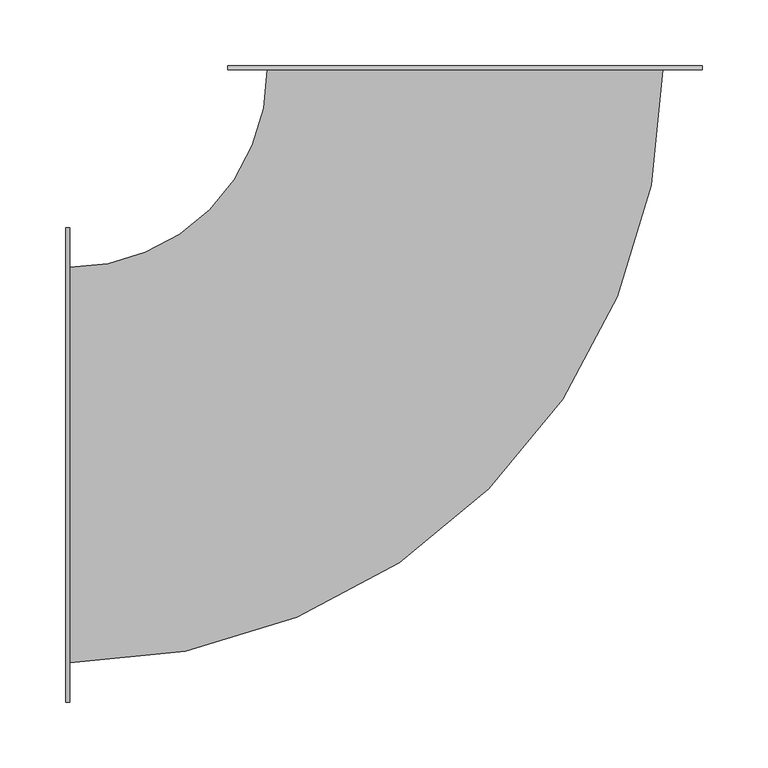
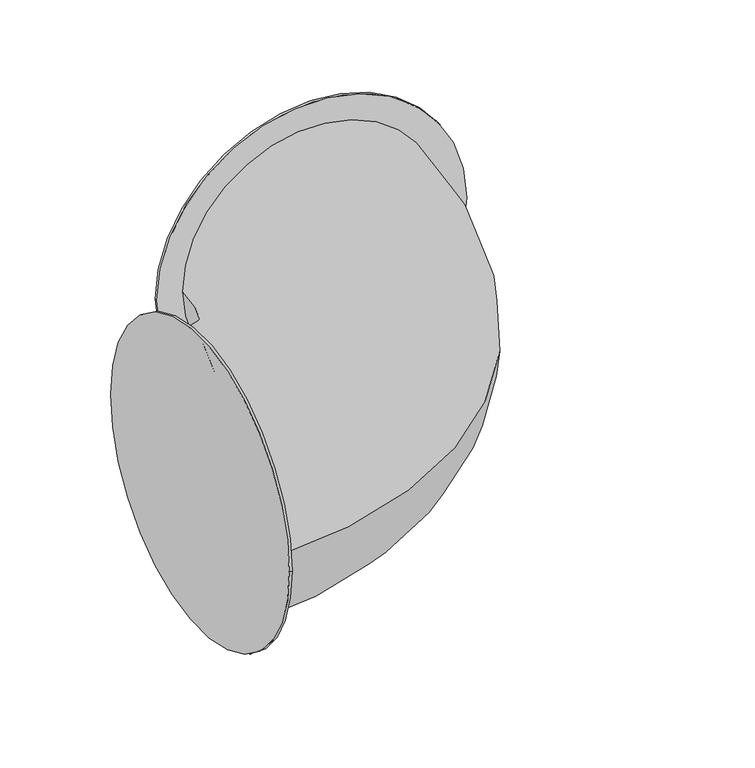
"""IFC4 building model written with IfcOpenShell, lengths in millimetres: duct fitting geometry, 圆形弯头 - 弧形 - 法兰 : 标准."""

from ifc_helpers import new_model, si_unit, point, frame, origin, place, context, project, spatial, circle_curve, ellipse_curve, trimmed, source, transform, mapped, element, save
from ifc_brep_helpers import plane_surface, cylinder_surface, revolved_surface, advanced_brep


def duct_fitting_bd8e9532(model_context):
    return source(origin(), model_context, "Body", "AdvancedBrep", [
        advanced_brep(
        [(-150.0, 300.0, 0.0), (-300.0, 150.0, 0.0), (-300.0, -150.0, 0.0), (150.0, 300.0, 0.0), (-303.0, -180.0, 0.0), (-303.0, 180.0, 0.0), (-300.0, -180.0, 0.0), (-300.0, 180.0, 0.0), (180.0, 300.0, 0.0), (-180.0, 300.0, 0.0), (180.0, 303.0, 0.0), (-180.0, 303.0, 0.0)],
        [
            (0, 1, circle_curve(frame((-300.0, 300.0, 0.0), z_axis=(0.0, 0.0, -1.0), x_axis=(0.0, -1.0, 0.0)), 150.0)),
            (1, 2, circle_curve(frame((-300.0, 0.0, 0.0), z_axis=(1.0, 0.0, 0.0), x_axis=(0.0, 1.0, 0.0)), 150.0)),
            (2, 3, circle_curve(frame((-300.0, 300.0, 0.0), z_axis=(0.0, 0.0, 1.0), x_axis=(0.0, -1.0, 0.0)), 450.0)),
            (3, 0, circle_curve(frame((0.0, 300.0, 0.0), z_axis=(0.0, -1.0, 0.0), x_axis=(-1.0, 0.0, 0.0)), 150.0)),
            (0, 3, circle_curve(frame((0.0, 300.0, 0.0), z_axis=(0.0, -1.0, 0.0), x_axis=(-1.0, 0.0, 0.0)), 150.0)),
            (2, 1, circle_curve(frame((-300.0, 0.0, 0.0), z_axis=(1.0, 0.0, 0.0), x_axis=(0.0, 1.0, 0.0)), 150.0)),
            (4, 5, circle_curve(frame((-303.0, 0.0, 0.0), z_axis=(-1.0, 0.0, 0.0), x_axis=(0.0, 1.0, 0.0)), 180.0)),
            (5, 4, circle_curve(frame((-303.0, 0.0, 0.0), z_axis=(-1.0, 0.0, 0.0), x_axis=(0.0, 1.0, 0.0)), 180.0)),
            (6, 7, circle_curve(frame((-300.0, 0.0, 0.0), z_axis=(1.0, 0.0, 0.0), x_axis=(0.0, 1.0, 0.0)), 180.0)),
            (7, 6, circle_curve(frame((-300.0, 0.0, 0.0), z_axis=(1.0, 0.0, 0.0), x_axis=(0.0, 1.0, 0.0)), 180.0)),
            (4, 6),
            (7, 5),
            (8, 9, circle_curve(frame((0.0, 300.0, 0.0), z_axis=(0.0, -1.0, 0.0), x_axis=(-1.0, 0.0, 0.0)), 180.0)),
            (9, 8, circle_curve(frame((0.0, 300.0, 0.0), z_axis=(0.0, -1.0, 0.0), x_axis=(-1.0, 0.0, 0.0)), 180.0)),
            (10, 11, circle_curve(frame((0.0, 303.0, 0.0), z_axis=(0.0, 1.0, 0.0), x_axis=(-1.0, 0.0, 0.0)), 180.0)),
            (11, 10, circle_curve(frame((0.0, 303.0, 0.0), z_axis=(0.0, 1.0, 0.0), x_axis=(-1.0, 0.0, 0.0)), 180.0)),
            (8, 10),
            (11, 9),
        ],
        [
            revolved_surface(trimmed(ellipse_curve(frame((-300.0, 0.0, 0.0), z_axis=(-1.0, 0.0, 0.0), x_axis=(0.0, 1.0, 0.0)), 150.0, 150.0), [point((-300.0, -150.0, 0.0))], [point((-300.0, 150.0, 0.0))], True, "CARTESIAN"), (-300.0, 300.0, 0.0), (0.0, 0.0, 1.0)),
            revolved_surface(trimmed(ellipse_curve(frame((-300.0, 0.0, 0.0), z_axis=(-1.0, 0.0, 0.0), x_axis=(0.0, 1.0, 0.0)), 150.0, 150.0), [point((-300.0, 150.0, 0.0))], [point((-300.0, -150.0, 0.0))], True, "CARTESIAN"), (-300.0, 300.0, 0.0), (0.0, 0.0, 1.0)),
            plane_surface(frame((-303.0, 0.0, 0.0), z_axis=(-1.0, 0.0, 0.0), x_axis=(0.0, 0.0, 1.0))),
            plane_surface(frame((-300.0, 0.0, 0.0), z_axis=(1.0, 0.0, 0.0), x_axis=(0.0, 0.0, 1.0))),
            cylinder_surface(frame((-303.0, 0.0, 0.0), z_axis=(-1.0, 0.0, 0.0), x_axis=(0.0, 1.0, 0.0)), 180.0),
            plane_surface(frame((0.0, 300.0, 0.0), z_axis=(0.0, -1.0, 0.0), x_axis=(0.0, 0.0, 1.0))),
            plane_surface(frame((0.0, 303.0, 0.0), z_axis=(0.0, 1.0, 0.0), x_axis=(0.0, 0.0, 1.0))),
            cylinder_surface(frame((0.0, 300.0, 0.0), z_axis=(0.0, -1.0, 0.0), x_axis=(-1.0, 0.0, 0.0)), 180.0),
        ],
        [
            (0, [[1, 2, 3, 4]]),
            (1, [[-1, 5, -3, 6]]),
            (2, [[7, 8]]),
            (3, [[9, 10], [-2, -6]]),
            (4, [[-7, 11, -10, 12]]),
            (4, [[-8, -12, -9, -11]]),
            (5, [[13, 14], [-4, -5]]),
            (6, [[15, 16]]),
            (7, [[-13, 17, -16, 18]]),
            (7, [[-14, -18, -15, -17]]),
        ],
    ),
    ])


if __name__ == "__main__":
    model = new_model("IFC4")
    model_context = context("Model", 3, world=origin())
    ifc_project = project(units=[si_unit("LENGTHUNIT", "METRE", prefix="MILLI")], contexts=[model_context])
    site = spatial("IfcSite", under=ifc_project)
    building = spatial("IfcBuilding", under=site)
    placement = place(None, origin())
    duct_fitting_shape = duct_fitting_bd8e9532(model_context)
    element("IfcDuctFitting", 1, ObjectType="圆形弯头 - 弧形 - 法兰 : 标准", at=placement, inside=building, context=model_context, shape_type="MappedRepresentation", body=[
        mapped(duct_fitting_shape, transform((0.0, 0.0, 0.0), x_axis=(1.0, 0.0, 0.0), y_axis=(0.0, 1.0, 0.0), z_axis=(0.0, 0.0, 1.0))),
    ])
    save(model, "model.ifc")
